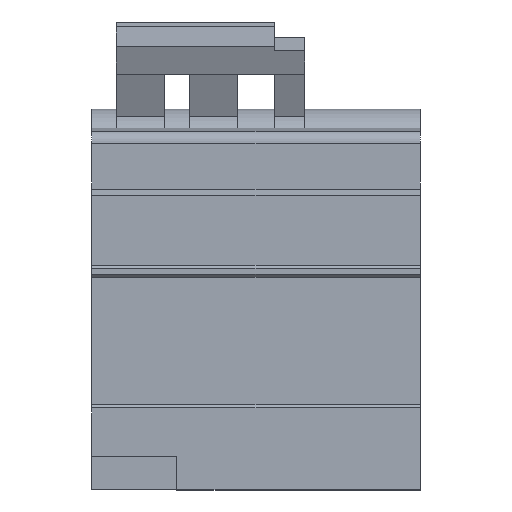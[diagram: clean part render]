
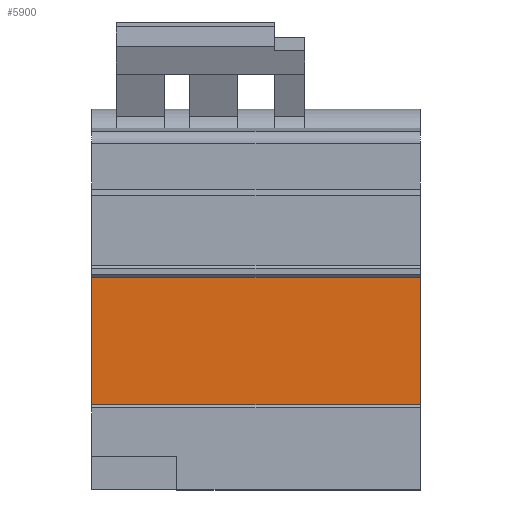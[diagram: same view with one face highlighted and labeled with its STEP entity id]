
A CAD part, front view. The second image highlights one B-rep face of the part: STEP entity #5900.
In plain terms, the highlighted planar face has unit normal (0, -1, 0).
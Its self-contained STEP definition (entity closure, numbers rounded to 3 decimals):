
#204=LINE('',#8248,#730);
#438=LINE('',#9952,#964);
#503=LINE('',#10112,#1029);
#504=LINE('',#10114,#1030);
#730=VECTOR('',#6680,10.);
#964=VECTOR('',#7398,10.);
#1029=VECTOR('',#7567,10.);
#1030=VECTOR('',#7570,10.);
#1385=PLANE('',#6391);
#1791=FACE_OUTER_BOUND('',#2202,.T.);
#2202=EDGE_LOOP('',(#4965,#4966,#4967,#4968));
#2576=VERTEX_POINT('',#8245);
#2577=VERTEX_POINT('',#8247);
#2878=VERTEX_POINT('',#9949);
#2879=VERTEX_POINT('',#9951);
#3150=EDGE_CURVE('',#2576,#2577,#204,.T.);
#3567=EDGE_CURVE('',#2879,#2878,#438,.T.);
#3648=EDGE_CURVE('',#2878,#2577,#503,.T.);
#3649=EDGE_CURVE('',#2879,#2576,#504,.T.);
#4965=ORIENTED_EDGE('',*,*,#3567,.T.);
#4966=ORIENTED_EDGE('',*,*,#3648,.T.);
#4967=ORIENTED_EDGE('',*,*,#3150,.F.);
#4968=ORIENTED_EDGE('',*,*,#3649,.F.);
#5900=ADVANCED_FACE('',(#1791),#1385,.T.);
#6391=AXIS2_PLACEMENT_3D('',#10113,#7568,#7569);
#6680=DIRECTION('',(0.,0.,-1.));
#7398=DIRECTION('',(0.,0.,-1.));
#7567=DIRECTION('',(1.,0.,0.));
#7568=DIRECTION('center_axis',(0.,-1.,0.));
#7569=DIRECTION('ref_axis',(0.,0.,-1.));
#7570=DIRECTION('',(1.,0.,0.));
#8245=CARTESIAN_POINT('',(54.,-6.653,-21.84));
#8247=CARTESIAN_POINT('',(54.,-6.653,-42.84));
#8248=CARTESIAN_POINT('',(54.,-6.653,-21.84));
#9949=CARTESIAN_POINT('',(0.,-6.653,-42.84));
#9951=CARTESIAN_POINT('',(0.,-6.653,-21.84));
#9952=CARTESIAN_POINT('',(0.,-6.653,-21.84));
#10112=CARTESIAN_POINT('',(0.,-6.653,-42.84));
#10113=CARTESIAN_POINT('Origin',(0.,-6.653,-21.84));
#10114=CARTESIAN_POINT('',(0.,-6.653,-21.84));
